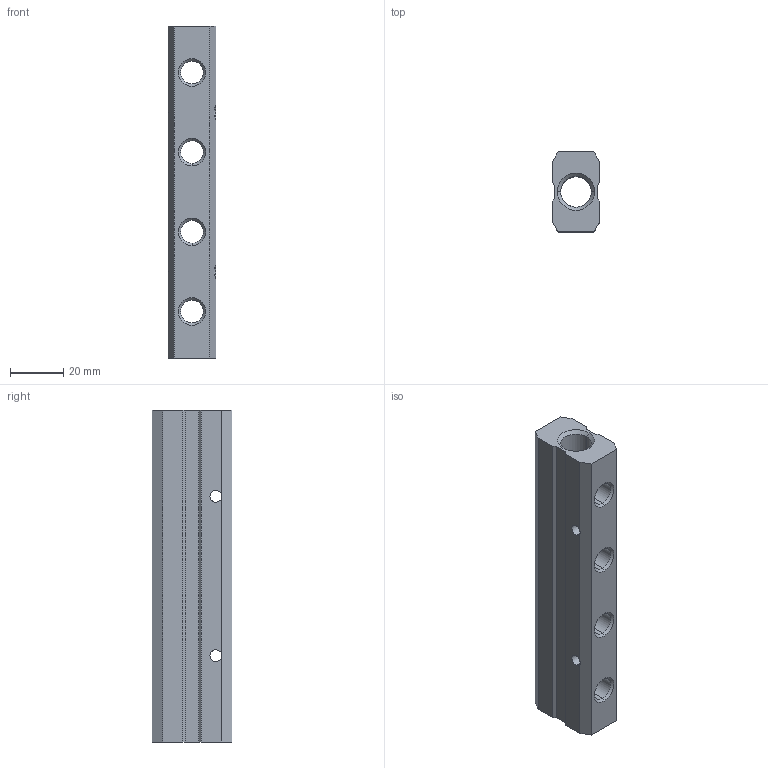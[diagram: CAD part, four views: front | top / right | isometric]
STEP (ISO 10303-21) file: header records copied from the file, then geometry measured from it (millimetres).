
FILE_DESCRIPTION (( 'STEP AP214' ), '1' );
FILE_NAME ('060480011AW00A.step', '2018-11-16T13:48:05', ( 'AIGNEP' ), ( 'Hewlett-Packard Company' ), 'SwSTEP 2.0', 'SolidWorks 2016', '' );
FILE_SCHEMA (( 'AUTOMOTIVE_DESIGN' ));
Length unit declared in the file: millimetre
Products named in the file (1): 060480011AW00A
Bounding box: 18 x 30 x 125 mm (x, y, z)
Volume: 45223.6 mm3; surface area: 18308.3 mm2
Topology: 1 solids, 1 shells, 74 faces, 194 edges, 120 vertices
Faces by surface type: cylinder 30, cone 24, plane 20
Entity records: 3114 total; most frequent: CARTESIAN_POINT 1009, DIRECTION 392, ORIENTED_EDGE 388, EDGE_CURVE 194, AXIS2_PLACEMENT_3D 143, VERTEX_POINT 120, LINE 106, VECTOR 106
